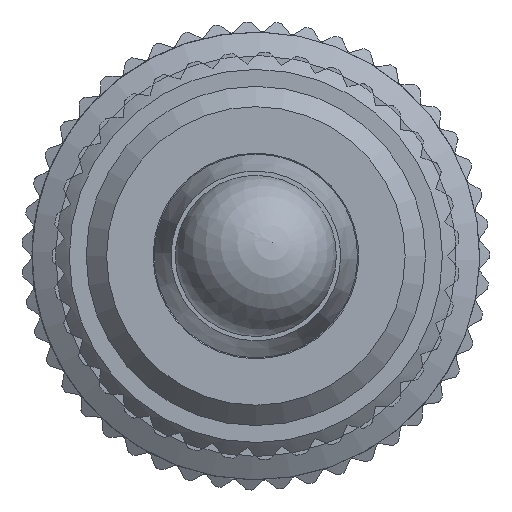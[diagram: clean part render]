
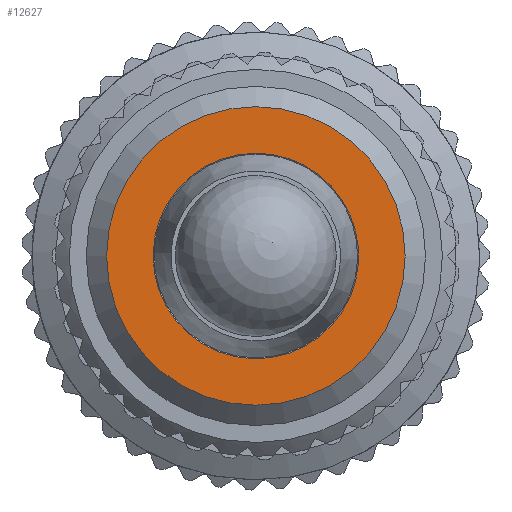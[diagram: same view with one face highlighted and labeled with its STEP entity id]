
A CAD part, left-side view. The second image highlights one B-rep face of the part: STEP entity #12627.
In plain terms, the highlighted planar face has unit normal (-1, 0, 0).
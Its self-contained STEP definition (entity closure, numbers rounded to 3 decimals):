
#878=FACE_BOUND($,#4120,.T.);
#2988=PLANE($,#13647);
#3407=FACE_OUTER_BOUND($,#4119,.T.);
#4119=EDGE_LOOP($,(#9966));
#4120=EDGE_LOOP($,(#9967));
#4879=CIRCLE($,#13644,4.4);
#4881=CIRCLE($,#13648,3.03);
#5539=VERTEX_POINT($,#18974);
#5541=VERTEX_POINT($,#18980);
#7150=EDGE_CURVE($,#5539,#5539,#4879,.T.);
#7152=EDGE_CURVE($,#5541,#5541,#4881,.T.);
#9966=ORIENTED_EDGE($,*,*,#7150,.F.);
#9967=ORIENTED_EDGE($,*,*,#7152,.F.);
#12627=ADVANCED_FACE($,(#3407,#878),#2988,.F.);
#13644=AXIS2_PLACEMENT_3D($,#18975,#15644,#15645);
#13647=AXIS2_PLACEMENT_3D($,#18979,#15650,#15651);
#13648=AXIS2_PLACEMENT_3D($,#18981,#15652,#15653);
#15644=DIRECTION('center_axis',(1.,0.,0.));
#15645=DIRECTION('ref_axis',(0.,0.,
-1.));
#15650=DIRECTION('center_axis',(1.,0.,0.));
#15651=DIRECTION('ref_axis',(0.,0.,
-1.));
#15652=DIRECTION('center_axis',(-1.,0.,0.));
#15653=DIRECTION('ref_axis',(0.,0.,
-1.));
#18974=CARTESIAN_POINT('',(8.082,-0.782,4.4));
#18975=CARTESIAN_POINT('Origin',(8.082,-0.782,0.));
#18979=CARTESIAN_POINT('Origin',(8.082,-0.782,0.));
#18980=CARTESIAN_POINT('',(8.082,-0.782,3.03));
#18981=CARTESIAN_POINT('Origin',(8.082,-0.782,0.));
